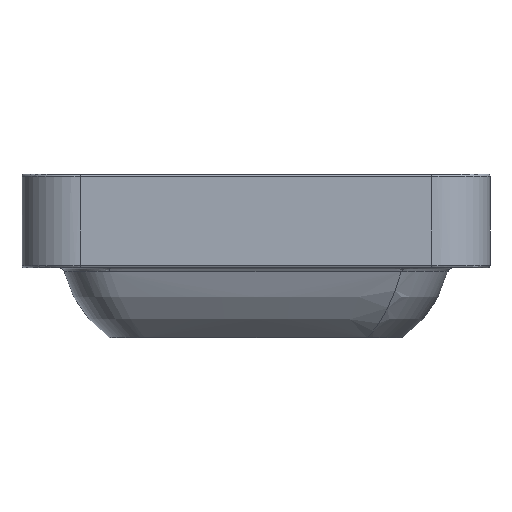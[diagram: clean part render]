
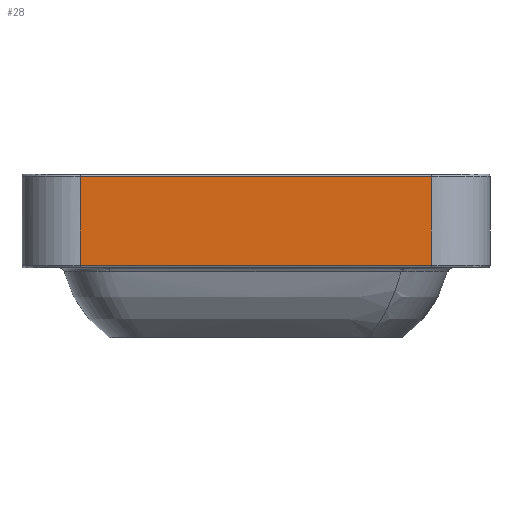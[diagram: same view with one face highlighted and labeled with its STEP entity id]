
A CAD part, left-side view. The second image highlights one B-rep face of the part: STEP entity #28.
In plain terms, the highlighted planar face has unit normal (-1, 0, 0).
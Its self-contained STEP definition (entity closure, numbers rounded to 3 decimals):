
#28=ADVANCED_FACE('',(#83),#935,.T.);
#83=FACE_OUTER_BOUND('',#138,.T.);
#138=EDGE_LOOP('',(#199,#200,#201,#202));
#199=ORIENTED_EDGE('',*,*,#507,.F.);
#200=ORIENTED_EDGE('',*,*,#508,.T.);
#201=ORIENTED_EDGE('',*,*,#503,.T.);
#202=ORIENTED_EDGE('',*,*,#509,.T.);
#503=EDGE_CURVE('',#812,#811,#700,.T.);
#507=EDGE_CURVE('',#816,#815,#702,.T.);
#508=EDGE_CURVE('',#816,#812,#703,.T.);
#509=EDGE_CURVE('',#811,#815,#704,.T.);
#700=B_SPLINE_CURVE_WITH_KNOTS('',1,(#16411,#16412),.UNSPECIFIED.,.F.,.F.,
(2,2),(0.,76.),.UNSPECIFIED.);
#702=B_SPLINE_CURVE_WITH_KNOTS('',1,(#16421,#16422),.UNSPECIFIED.,.F.,.F.,
(2,2),(0.,76.),.UNSPECIFIED.);
#703=B_SPLINE_CURVE_WITH_KNOTS('',1,(#16423,#16424),.UNSPECIFIED.,.F.,.F.,
(2,2),(0.,300.),.UNSPECIFIED.);
#704=B_SPLINE_CURVE_WITH_KNOTS('',1,(#16425,#16426),.UNSPECIFIED.,.F.,.F.,
(2,2),(0.,300.),.UNSPECIFIED.);
#811=VERTEX_POINT('',#16309);
#812=VERTEX_POINT('',#16310);
#815=VERTEX_POINT('',#16313);
#816=VERTEX_POINT('',#16314);
#935=PLANE('',#988);
#988=AXIS2_PLACEMENT_3D('',#1018,#998,$);
#998=DIRECTION('',(-1.,0.,0.));
#1018=CARTESIAN_POINT('',(-225.,165.,-81.8));
#16309=CARTESIAN_POINT('',(-225.,-150.,-2.));
#16310=CARTESIAN_POINT('',(-225.,-150.,-78.));
#16313=CARTESIAN_POINT('',(-225.,150.,-2.));
#16314=CARTESIAN_POINT('',(-225.,150.,-78.));
#16411=CARTESIAN_POINT('',(-225.,-150.,-78.));
#16412=CARTESIAN_POINT('',(-225.,-150.,-2.));
#16421=CARTESIAN_POINT('',(-225.,150.,-78.));
#16422=CARTESIAN_POINT('',(-225.,150.,-2.));
#16423=CARTESIAN_POINT('',(-225.,150.,-78.));
#16424=CARTESIAN_POINT('',(-225.,-150.,-78.));
#16425=CARTESIAN_POINT('',(-225.,-150.,-2.));
#16426=CARTESIAN_POINT('',(-225.,150.,-2.));
